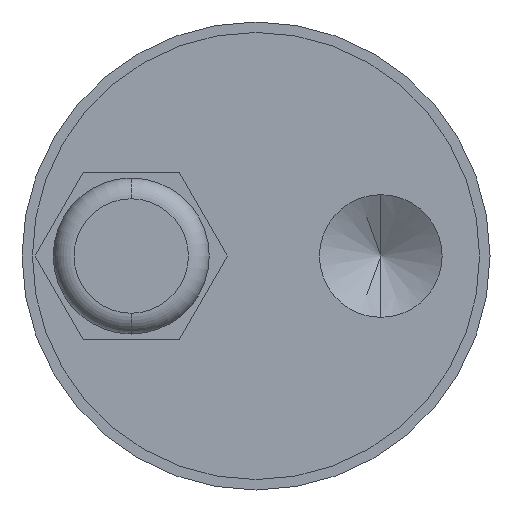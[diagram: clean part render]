
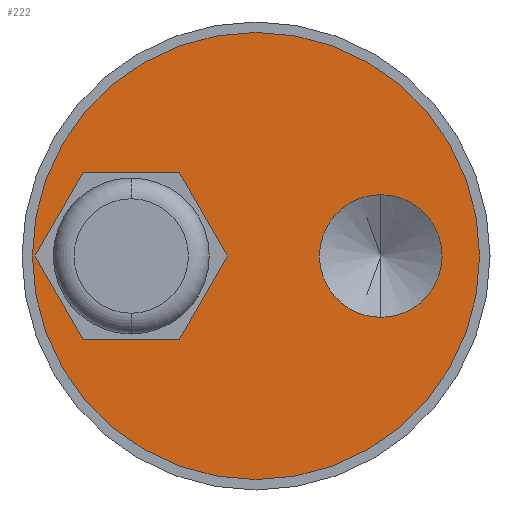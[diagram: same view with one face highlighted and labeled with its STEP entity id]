
A CAD part, front view. The second image highlights one B-rep face of the part: STEP entity #222.
In plain terms, the highlighted planar face has unit normal (0, -1, 0).
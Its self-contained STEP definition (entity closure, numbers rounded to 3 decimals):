
#3 = CARTESIAN_POINT ( 'NONE',  ( -21.238, 0., 0. ) ) ;
#10 = DIRECTION ( 'NONE',  ( 0.5, 0., -0.866 ) ) ;
#26 = LINE ( 'NONE', #713, #249 ) ;
#41 = EDGE_CURVE ( 'NONE', #1127, #956, #1019, .T. ) ;
#77 = EDGE_LOOP ( 'NONE', ( #377, #1139 ) ) ;
#109 = FACE_BOUND ( 'NONE', #733, .T. ) ;
#147 = CARTESIAN_POINT ( 'NONE',  ( -2.762, 0., 0. ) ) ;
#149 = ORIENTED_EDGE ( 'NONE', *, *, #1062, .F. ) ;
#161 = VERTEX_POINT ( 'NONE', #1131 ) ;
#176 = LINE ( 'NONE', #218, #516 ) ;
#179 = DIRECTION ( 'NONE',  ( 0., 0., -1. ) ) ;
#218 = CARTESIAN_POINT ( 'NONE',  ( -7.381, 0., 8. ) ) ;
#222 = ADVANCED_FACE ( 'NONE', ( #562, #295, #109 ), #568, .F. ) ;
#239 = VERTEX_POINT ( 'NONE', #687 ) ;
#245 = DIRECTION ( 'NONE',  ( 0., 1., 0. ) ) ;
#249 = VECTOR ( 'NONE', #1104, 1000. ) ;
#251 = CARTESIAN_POINT ( 'NONE',  ( -2.762, 0., 0. ) ) ;
#261 = DIRECTION ( 'NONE',  ( 0., 0., 1. ) ) ;
#281 = CARTESIAN_POINT ( 'NONE',  ( -21.238, 0., 0. ) ) ;
#295 = FACE_BOUND ( 'NONE', #77, .T. ) ;
#333 = CARTESIAN_POINT ( 'NONE',  ( -7.381, 0., 8. ) ) ;
#366 = CARTESIAN_POINT ( 'NONE',  ( -16.619, 0., -8. ) ) ;
#370 = CARTESIAN_POINT ( 'NONE',  ( -7.381, 0., -8. ) ) ;
#377 = ORIENTED_EDGE ( 'NONE', *, *, #666, .F. ) ;
#416 = AXIS2_PLACEMENT_3D ( 'NONE', #440, #245, #552 ) ;
#429 = VECTOR ( 'NONE', #717, 1000. ) ;
#440 = CARTESIAN_POINT ( 'NONE',  ( 0., 0., 0. ) ) ;
#444 = DIRECTION ( 'NONE',  ( -0.5, 0., 0.866 ) ) ;
#471 = CIRCLE ( 'NONE', #1191, 5.9 ) ;
#495 = AXIS2_PLACEMENT_3D ( 'NONE', #586, #1263, #179 ) ;
#498 = VECTOR ( 'NONE', #954, 1000. ) ;
#501 = DIRECTION ( 'NONE',  ( -1., 0., 0. ) ) ;
#509 = VERTEX_POINT ( 'NONE', #147 ) ;
#514 = CIRCLE ( 'NONE', #495, 5.9 ) ;
#516 = VECTOR ( 'NONE', #501, 1000. ) ;
#520 = ORIENTED_EDGE ( 'NONE', *, *, #824, .F. ) ;
#551 = VERTEX_POINT ( 'NONE', #333 ) ;
#552 = DIRECTION ( 'NONE',  ( 0., 0., 1. ) ) ;
#561 = ORIENTED_EDGE ( 'NONE', *, *, #841, .F. ) ;
#562 = FACE_OUTER_BOUND ( 'NONE', #579, .T. ) ;
#568 = PLANE ( 'NONE',  #1229 ) ;
#579 = EDGE_LOOP ( 'NONE', ( #914, #645 ) ) ;
#586 = CARTESIAN_POINT ( 'NONE',  ( 12., 0., 0. ) ) ;
#606 = EDGE_CURVE ( 'NONE', #956, #1127, #806, .T. ) ;
#624 = LINE ( 'NONE', #1024, #429 ) ;
#645 = ORIENTED_EDGE ( 'NONE', *, *, #41, .F. ) ;
#662 = DIRECTION ( 'NONE',  ( 0., 0., 1. ) ) ;
#666 = EDGE_CURVE ( 'NONE', #805, #239, #514, .T. ) ;
#668 = DIRECTION ( 'NONE',  ( 0., 1., 0. ) ) ;
#670 = CARTESIAN_POINT ( 'NONE',  ( -16.619, 0., 8. ) ) ;
#673 = VECTOR ( 'NONE', #10, 1000. ) ;
#687 = CARTESIAN_POINT ( 'NONE',  ( 12., 0., 5.9 ) ) ;
#713 = CARTESIAN_POINT ( 'NONE',  ( -7.381, 0., -8. ) ) ;
#717 = DIRECTION ( 'NONE',  ( -0.5, 0., -0.866 ) ) ;
#733 = EDGE_LOOP ( 'NONE', ( #520, #149, #766, #1201, #561, #1225 ) ) ;
#755 = CARTESIAN_POINT ( 'NONE',  ( 0., 0., 21.5 ) ) ;
#766 = ORIENTED_EDGE ( 'NONE', *, *, #1169, .F. ) ;
#781 = CARTESIAN_POINT ( 'NONE',  ( 12., 0., 0. ) ) ;
#805 = VERTEX_POINT ( 'NONE', #1005 ) ;
#806 = CIRCLE ( 'NONE', #1040, 21.5 ) ;
#824 = EDGE_CURVE ( 'NONE', #1188, #509, #26, .T. ) ;
#841 = EDGE_CURVE ( 'NONE', #551, #1102, #176, .T. ) ;
#876 = VECTOR ( 'NONE', #444, 1000. ) ;
#913 = EDGE_CURVE ( 'NONE', #1102, #1241, #624, .T. ) ;
#914 = ORIENTED_EDGE ( 'NONE', *, *, #606, .F. ) ;
#943 = EDGE_CURVE ( 'NONE', #509, #551, #986, .T. ) ;
#947 = CARTESIAN_POINT ( 'NONE',  ( 0., 0., -21.5 ) ) ;
#954 = DIRECTION ( 'NONE',  ( 1., 0., 0. ) ) ;
#956 = VERTEX_POINT ( 'NONE', #947 ) ;
#968 = DIRECTION ( 'NONE',  ( 0., 1., 0. ) ) ;
#986 = LINE ( 'NONE', #251, #876 ) ;
#994 = DIRECTION ( 'NONE',  ( 0., -1., 0. ) ) ;
#1005 = CARTESIAN_POINT ( 'NONE',  ( 12., 0., -5.9 ) ) ;
#1019 = CIRCLE ( 'NONE', #416, 21.5 ) ;
#1024 = CARTESIAN_POINT ( 'NONE',  ( -16.619, 0., 8. ) ) ;
#1040 = AXIS2_PLACEMENT_3D ( 'NONE', #1146, #968, #662 ) ;
#1062 = EDGE_CURVE ( 'NONE', #161, #1188, #1195, .T. ) ;
#1102 = VERTEX_POINT ( 'NONE', #670 ) ;
#1104 = DIRECTION ( 'NONE',  ( 0.5, 0., 0.866 ) ) ;
#1127 = VERTEX_POINT ( 'NONE', #755 ) ;
#1131 = CARTESIAN_POINT ( 'NONE',  ( -16.619, 0., -8. ) ) ;
#1139 = ORIENTED_EDGE ( 'NONE', *, *, #1153, .F. ) ;
#1146 = CARTESIAN_POINT ( 'NONE',  ( 0., 0., 0. ) ) ;
#1153 = EDGE_CURVE ( 'NONE', #239, #805, #471, .T. ) ;
#1157 = CARTESIAN_POINT ( 'NONE',  ( 0., 0., 0. ) ) ;
#1167 = DIRECTION ( 'NONE',  ( 0., 0., -1. ) ) ;
#1169 = EDGE_CURVE ( 'NONE', #1241, #161, #1254, .T. ) ;
#1188 = VERTEX_POINT ( 'NONE', #370 ) ;
#1191 = AXIS2_PLACEMENT_3D ( 'NONE', #781, #994, #1167 ) ;
#1195 = LINE ( 'NONE', #366, #498 ) ;
#1201 = ORIENTED_EDGE ( 'NONE', *, *, #913, .F. ) ;
#1225 = ORIENTED_EDGE ( 'NONE', *, *, #943, .F. ) ;
#1229 = AXIS2_PLACEMENT_3D ( 'NONE', #1157, #668, #261 ) ;
#1241 = VERTEX_POINT ( 'NONE', #3 ) ;
#1254 = LINE ( 'NONE', #281, #673 ) ;
#1263 = DIRECTION ( 'NONE',  ( 0., -1., 0. ) ) ;
